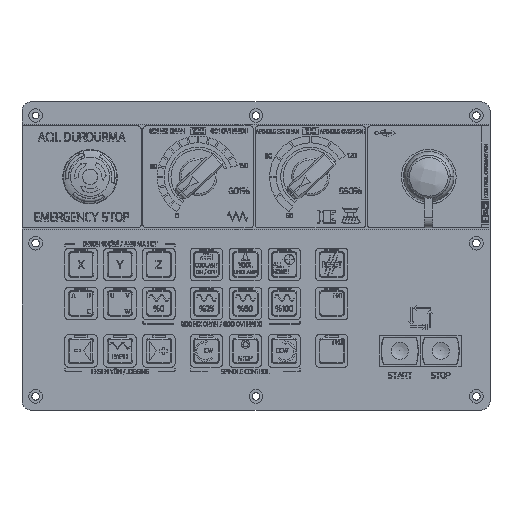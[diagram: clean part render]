
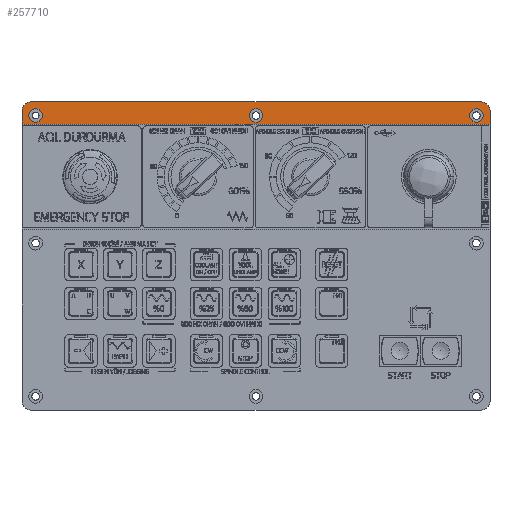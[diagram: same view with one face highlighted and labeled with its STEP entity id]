
A CAD part, top view. The second image highlights one B-rep face of the part: STEP entity #257710.
In plain terms, the highlighted planar face has unit normal (0, 0, 1).
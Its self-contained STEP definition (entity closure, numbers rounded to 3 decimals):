
#238 = DIRECTION ( 'NONE',  ( 1., 0., 0. ) ) ;
#1522 = ORIENTED_EDGE ( 'NONE', *, *, #226481, .F. ) ;
#1749 = DIRECTION ( 'NONE',  ( -1., 0., 0. ) ) ;
#4399 = VERTEX_POINT ( 'NONE', #42772 ) ;
#4710 = LINE ( 'NONE', #201570, #237528 ) ;
#5263 = CIRCLE ( 'NONE', #164477, 4. ) ;
#7004 = DIRECTION ( 'NONE',  ( 0., 0., 1. ) ) ;
#7165 = ORIENTED_EDGE ( 'NONE', *, *, #31512, .F. ) ;
#7238 = VERTEX_POINT ( 'NONE', #214074 ) ;
#7821 = AXIS2_PLACEMENT_3D ( 'NONE', #126465, #7004, #8272 ) ;
#8272 = DIRECTION ( 'NONE',  ( 1., 0., 0. ) ) ;
#8639 = VERTEX_POINT ( 'NONE', #129483 ) ;
#9249 = CARTESIAN_POINT ( 'NONE',  ( 137.5, 173., 1. ) ) ;
#16981 = AXIS2_PLACEMENT_3D ( 'NONE', #84122, #162863, #238 ) ;
#17068 = AXIS2_PLACEMENT_3D ( 'NONE', #89552, #106703, #210245 ) ;
#17973 = DIRECTION ( 'NONE',  ( 0., 0., 1. ) ) ;
#31512 = EDGE_CURVE ( 'NONE', #4399, #112204, #107245, .T. ) ;
#33086 = DIRECTION ( 'NONE',  ( 0., 0., 1. ) ) ;
#34046 = DIRECTION ( 'NONE',  ( 0., 0., 1. ) ) ;
#37117 = CIRCLE ( 'NONE', #183756, 4. ) ;
#42772 = CARTESIAN_POINT ( 'NONE',  ( 275., 168., 1. ) ) ;
#43485 = VERTEX_POINT ( 'NONE', #242620 ) ;
#43685 = CARTESIAN_POINT ( 'NONE',  ( 5., 176., 1. ) ) ;
#45540 = DIRECTION ( 'NONE',  ( -1., 0., 0. ) ) ;
#46075 = LINE ( 'NONE', #186492, #182212 ) ;
#48660 = DIRECTION ( 'NONE',  ( -1., 0., 0. ) ) ;
#51451 = FACE_BOUND ( 'NONE', #137597, .T. ) ;
#54159 = VECTOR ( 'NONE', #229238, 1000. ) ;
#61802 = AXIS2_PLACEMENT_3D ( 'NONE', #63445, #143524, #178983 ) ;
#63380 = DIRECTION ( 'NONE',  ( 0., 0., 1. ) ) ;
#63445 = CARTESIAN_POINT ( 'NONE',  ( 270., 176., 1. ) ) ;
#66280 = AXIS2_PLACEMENT_3D ( 'NONE', #43685, #63380, #1749 ) ;
#69174 = VERTEX_POINT ( 'NONE', #184735 ) ;
#69756 = ORIENTED_EDGE ( 'NONE', *, *, #254368, .T. ) ;
#70201 = CIRCLE ( 'NONE', #61802, 5. ) ;
#70420 = EDGE_LOOP ( 'NONE', ( #76821, #120247 ) ) ;
#74044 = ORIENTED_EDGE ( 'NONE', *, *, #187665, .F. ) ;
#74986 = EDGE_LOOP ( 'NONE', ( #100049, #163432, #207156, #7165, #69756, #169511 ) ) ;
#76821 = ORIENTED_EDGE ( 'NONE', *, *, #87711, .F. ) ;
#81849 = CARTESIAN_POINT ( 'NONE',  ( 263., 173., 1. ) ) ;
#82966 = AXIS2_PLACEMENT_3D ( 'NONE', #176062, #33086, #92136 ) ;
#84122 = CARTESIAN_POINT ( 'NONE',  ( 8., 173., 1. ) ) ;
#87711 = EDGE_CURVE ( 'NONE', #69174, #43485, #5263, .T. ) ;
#89552 = CARTESIAN_POINT ( 'NONE',  ( 0., 0., 1. ) ) ;
#92136 = DIRECTION ( 'NONE',  ( 1., 0., 0. ) ) ;
#99926 = CARTESIAN_POINT ( 'NONE',  ( 12., 173., 1. ) ) ;
#100049 = ORIENTED_EDGE ( 'NONE', *, *, #152162, .T. ) ;
#102312 = CARTESIAN_POINT ( 'NONE',  ( 137.5, 173., 1. ) ) ;
#105350 = VERTEX_POINT ( 'NONE', #81849 ) ;
#106703 = DIRECTION ( 'NONE',  ( 0., 0., -1. ) ) ;
#107245 = LINE ( 'NONE', #108506, #146528 ) ;
#108265 = CIRCLE ( 'NONE', #66280, 5. ) ;
#108506 = CARTESIAN_POINT ( 'NONE',  ( -11.229, 168., 1. ) ) ;
#109261 = FACE_OUTER_BOUND ( 'NONE', #74986, .T. ) ;
#112204 = VERTEX_POINT ( 'NONE', #137725 ) ;
#118781 = CIRCLE ( 'NONE', #143864, 4. ) ;
#120247 = ORIENTED_EDGE ( 'NONE', *, *, #139143, .F. ) ;
#122086 = EDGE_CURVE ( 'NONE', #137376, #112204, #4710, .T. ) ;
#123672 = ORIENTED_EDGE ( 'NONE', *, *, #191376, .F. ) ;
#126465 = CARTESIAN_POINT ( 'NONE',  ( 267., 173., 1. ) ) ;
#127018 = LINE ( 'NONE', #209564, #54159 ) ;
#129483 = CARTESIAN_POINT ( 'NONE',  ( 5., 181., 1. ) ) ;
#130178 = CIRCLE ( 'NONE', #16981, 4. ) ;
#133369 = CIRCLE ( 'NONE', #82966, 4. ) ;
#134664 = VERTEX_POINT ( 'NONE', #223204 ) ;
#137376 = VERTEX_POINT ( 'NONE', #241227 ) ;
#137597 = EDGE_LOOP ( 'NONE', ( #123672, #74044 ) ) ;
#137725 = CARTESIAN_POINT ( 'NONE',  ( 0., 168., 1. ) ) ;
#139143 = EDGE_CURVE ( 'NONE', #43485, #69174, #37117, .T. ) ;
#143524 = DIRECTION ( 'NONE',  ( 0., 0., 1. ) ) ;
#143864 = AXIS2_PLACEMENT_3D ( 'NONE', #212497, #34046, #174445 ) ;
#146528 = VECTOR ( 'NONE', #45540, 1000. ) ;
#148782 = EDGE_CURVE ( 'NONE', #258727, #186525, #118781, .T. ) ;
#152162 = EDGE_CURVE ( 'NONE', #134664, #8639, #46075, .T. ) ;
#162052 = EDGE_CURVE ( 'NONE', #8639, #137376, #108265, .T. ) ;
#162863 = DIRECTION ( 'NONE',  ( 0., 0., 1. ) ) ;
#163432 = ORIENTED_EDGE ( 'NONE', *, *, #162052, .T. ) ;
#164477 = AXIS2_PLACEMENT_3D ( 'NONE', #102312, #220424, #203324 ) ;
#168039 = DIRECTION ( 'NONE',  ( 1., 0., 0. ) ) ;
#169511 = ORIENTED_EDGE ( 'NONE', *, *, #187365, .T. ) ;
#170870 = FACE_BOUND ( 'NONE', #220732, .T. ) ;
#174445 = DIRECTION ( 'NONE',  ( 1., 0., 0. ) ) ;
#176062 = CARTESIAN_POINT ( 'NONE',  ( 267., 173., 1. ) ) ;
#178669 = CARTESIAN_POINT ( 'NONE',  ( 4., 173., 1. ) ) ;
#178983 = DIRECTION ( 'NONE',  ( -1., 0., 0. ) ) ;
#182212 = VECTOR ( 'NONE', #48660, 1000. ) ;
#183756 = AXIS2_PLACEMENT_3D ( 'NONE', #9249, #17973, #168039 ) ;
#184735 = CARTESIAN_POINT ( 'NONE',  ( 141.5, 173., 1. ) ) ;
#186492 = CARTESIAN_POINT ( 'NONE',  ( 0., 181., 1. ) ) ;
#186525 = VERTEX_POINT ( 'NONE', #178669 ) ;
#187365 = EDGE_CURVE ( 'NONE', #7238, #134664, #70201, .T. ) ;
#187665 = EDGE_CURVE ( 'NONE', #105350, #201726, #133369, .T. ) ;
#191376 = EDGE_CURVE ( 'NONE', #201726, #105350, #213294, .T. ) ;
#191826 = FACE_BOUND ( 'NONE', #70420, .T. ) ;
#200113 = ORIENTED_EDGE ( 'NONE', *, *, #148782, .F. ) ;
#201570 = CARTESIAN_POINT ( 'NONE',  ( 0., 0., 1. ) ) ;
#201726 = VERTEX_POINT ( 'NONE', #234627 ) ;
#203324 = DIRECTION ( 'NONE',  ( 1., 0., 0. ) ) ;
#207156 = ORIENTED_EDGE ( 'NONE', *, *, #122086, .T. ) ;
#209564 = CARTESIAN_POINT ( 'NONE',  ( 275., 0., 1. ) ) ;
#210245 = DIRECTION ( 'NONE',  ( -1., 0., 0. ) ) ;
#212497 = CARTESIAN_POINT ( 'NONE',  ( 8., 173., 1. ) ) ;
#213294 = CIRCLE ( 'NONE', #7821, 4. ) ;
#214074 = CARTESIAN_POINT ( 'NONE',  ( 275., 176., 1. ) ) ;
#220424 = DIRECTION ( 'NONE',  ( 0., 0., 1. ) ) ;
#220732 = EDGE_LOOP ( 'NONE', ( #200113, #1522 ) ) ;
#223204 = CARTESIAN_POINT ( 'NONE',  ( 270., 181., 1. ) ) ;
#226481 = EDGE_CURVE ( 'NONE', #186525, #258727, #130178, .T. ) ;
#228645 = PLANE ( 'NONE',  #17068 ) ;
#229238 = DIRECTION ( 'NONE',  ( 0., 1., 0. ) ) ;
#234627 = CARTESIAN_POINT ( 'NONE',  ( 271., 173., 1. ) ) ;
#237528 = VECTOR ( 'NONE', #240933, 1000. ) ;
#240933 = DIRECTION ( 'NONE',  ( 0., -1., 0. ) ) ;
#241227 = CARTESIAN_POINT ( 'NONE',  ( 0., 176., 1. ) ) ;
#242620 = CARTESIAN_POINT ( 'NONE',  ( 133.5, 173., 1. ) ) ;
#254368 = EDGE_CURVE ( 'NONE', #4399, #7238, #127018, .T. ) ;
#257710 = ADVANCED_FACE ( 'NONE', ( #191826, #51451, #170870, #109261 ), #228645, .F. ) ;
#258727 = VERTEX_POINT ( 'NONE', #99926 ) ;
